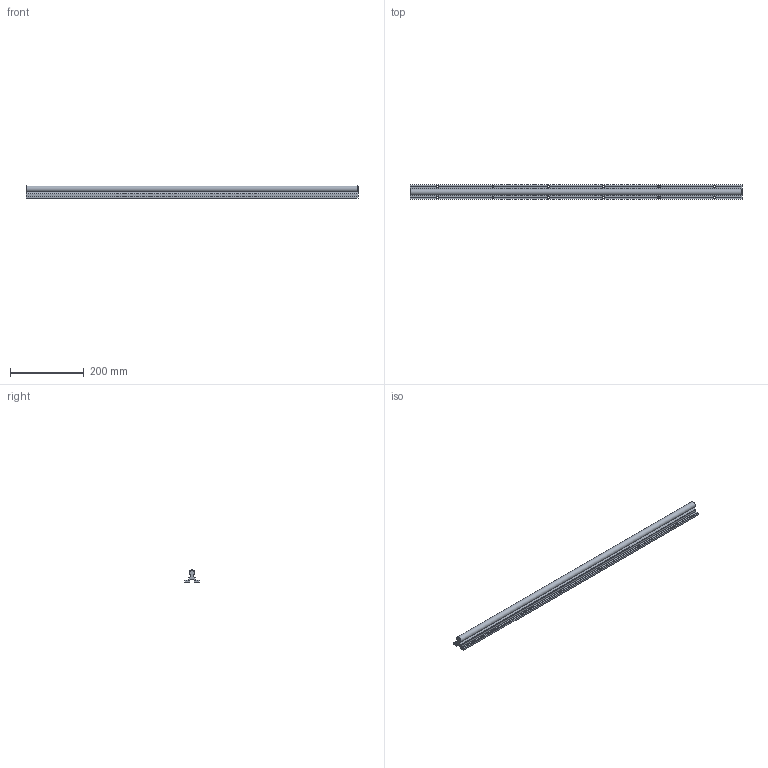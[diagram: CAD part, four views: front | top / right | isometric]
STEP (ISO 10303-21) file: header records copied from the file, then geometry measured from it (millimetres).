
FILE_DESCRIPTION(/* description */ (''),/* implementation_level */ '2;1');
FILE_NAME(/* name */ 'C:\Users\David\Desktop\stepFiles\Profilfuehrung\LFS16x900.stp',/* time_stamp */ '2018-06-24T15:18:15+02:00',/* author */ ('Buskamp'),/* organization */ (''),/* preprocessor_version */ 'ST-DEVELOPER v17',/* originating_system */ 'Autodesk Inventor 2019',/* authorisation */ '');
FILE_SCHEMA (('AUTOMOTIVE_DESIGN { 1 0 10303 214 3 1 1 }'));
Length unit declared in the file: millimetre
Products named in the file (1): Linearführung D16xvariabel
Bounding box: 900 x 40 x 32.97 mm (x, y, z)
Volume: 459601.3 mm3; surface area: 141667.7 mm2
Topology: 1 solids, 1 shells, 92 faces, 286 edges, 184 vertices
Faces by surface type: plane 61, cone 18, cylinder 13
Full cylindrical faces by diameter (mm): 5.5 x12
Entity records: 3245 total; most frequent: CARTESIAN_POINT 635, ORIENTED_EDGE 572, DIRECTION 540, EDGE_CURVE 286, AXIS2_PLACEMENT_3D 197, VERTEX_POINT 184, LINE 146, VECTOR 146
